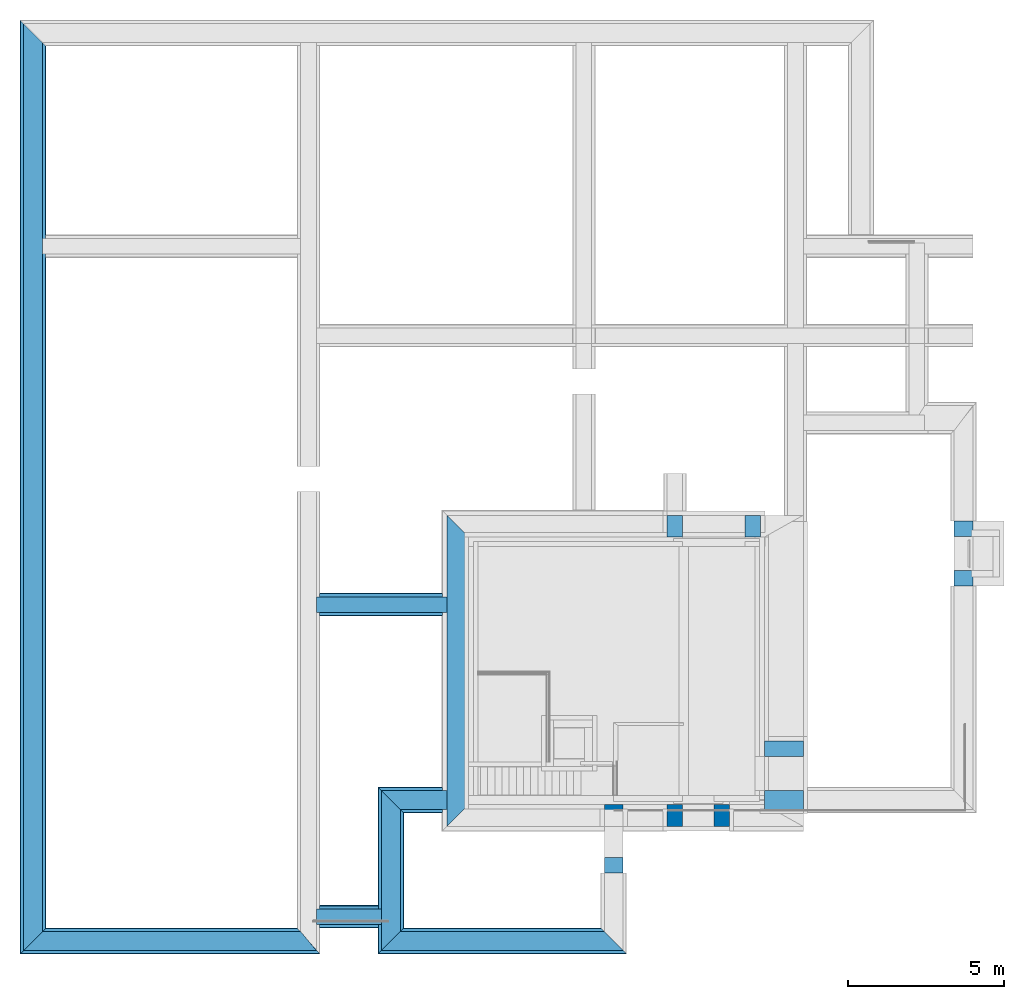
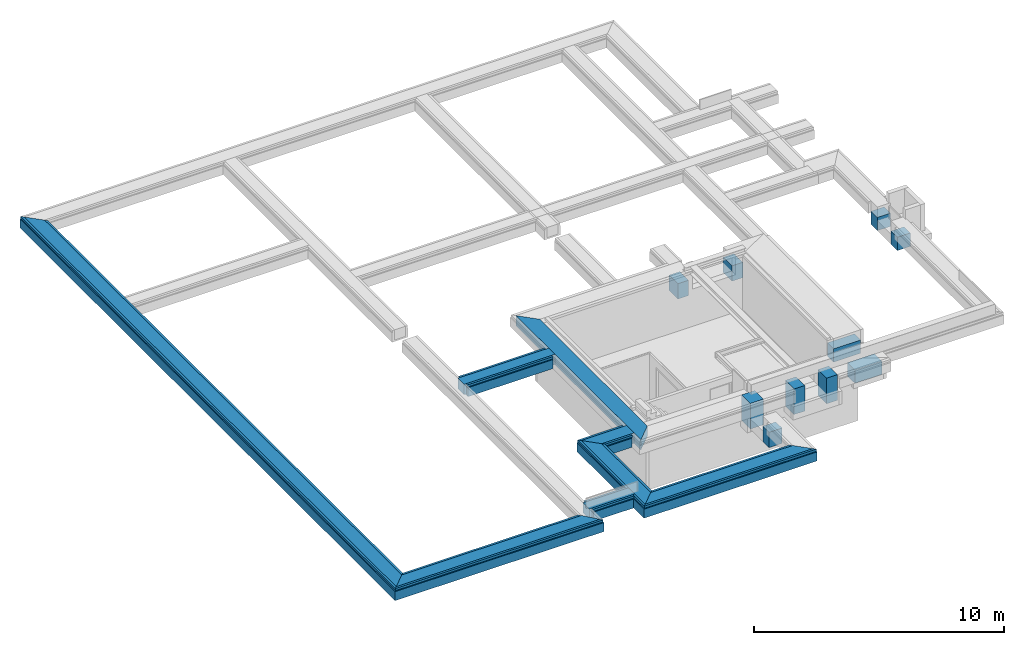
# One storey, part 1 of 11: 15 beams, 10 columns.
"""IFC2X3 building model written with IfcOpenShell, lengths in millimetres."""

from ifc_helpers import new_model, entity, si_unit, converted_unit, derived_unit, money_unit, direction, frame, origin_with_axes, place, context, subcontext, project, spatial, faceted_brep, material, type_object, element, save


model = new_model("IFC2X3")

# Units and contexts
model_context = context("Model", 3, precision=0.01, world=origin_with_axes(), true_north=direction((0.0, 1.0)))
body_context = subcontext(model_context, "Body", "Model", "MODEL_VIEW")
ifc_project = project(units=[si_unit("LENGTHUNIT", "METRE", prefix="MILLI"), si_unit("AREAUNIT", "SQUARE_METRE"), si_unit("VOLUMEUNIT", "CUBIC_METRE"), converted_unit("PLANEANGLEUNIT", "DEGREE", entity("IfcPlaneAngleMeasure", 0.0174532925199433), si_unit("PLANEANGLEUNIT", "RADIAN"), dimensions=[0, 0, 0, 0, 0, 0, 0]), money_unit("EUR"), converted_unit("TIMEUNIT", "Year", entity("IfcTimeMeasure", 31556926.0), si_unit("TIMEUNIT", "SECOND"), dimensions=[0, 0, 1, 0, 0, 0, 0]), si_unit("MASSUNIT", "GRAM", prefix="KILO"), si_unit("THERMODYNAMICTEMPERATUREUNIT", "DEGREE_CELSIUS"), si_unit("LUMINOUSINTENSITYUNIT", "LUMEN"), si_unit("ENERGYUNIT", "JOULE", prefix="MEGA"), derived_unit("THERMALCONDUCTANCEUNIT", [(si_unit("POWERUNIT", "WATT"), 1), (si_unit("LENGTHUNIT", "METRE"), -1), (si_unit("THERMODYNAMICTEMPERATUREUNIT", "KELVIN"), -1)]), derived_unit("SPECIFICHEATCAPACITYUNIT", [(si_unit("ENERGYUNIT", "JOULE"), 1), (si_unit("MASSUNIT", "GRAM", prefix="KILO"), -1), (si_unit("THERMODYNAMICTEMPERATUREUNIT", "KELVIN"), -1)]), derived_unit("MASSDENSITYUNIT", [(si_unit("MASSUNIT", "GRAM", prefix="KILO"), 1), (si_unit("VOLUMEUNIT", "CUBIC_METRE"), -1)])], contexts=[model_context])

# Site, building, storey
site_placement = place(None, origin_with_axes())
site = spatial("IfcSite", under=ifc_project, at=site_placement, Name="Site", CompositionType="ELEMENT")
building_placement = place(site_placement, origin_with_axes())
building = spatial("IfcBuilding", under=site, at=building_placement, Name="Naam gebouw", CompositionType="ELEMENT")
storey_placement = place(building_placement, frame((0.0, 0.0, -3060.0), z_axis=(0.0, 0.0, 1.0), x_axis=(1.0, 0.0, 0.0)))
storey = spatial("IfcBuildingStorey", under=building, at=storey_placement, Name="Kelder", CompositionType="ELEMENT", Elevation=-3060.0)

# Columns
ifc_material_1 = material(Name="Beton gewapend C")
column_type_1 = type_object("IfcColumnType", Name="16 Fundering - betonbalk 600 x 500", PredefinedType="COLUMN")
column_1_placement = place(storey_placement, frame((29900.00000000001, 12999.99778166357, 1425.0), z_axis=(0.0, 0.0, 1.0), x_axis=(-1.0, 0.0, 0.0)))
element("IfcColumn", 1, at=column_1_placement, inside=storey, type_object=column_type_1, material=ifc_material_1, Name="28_Kolom-x", ObjectType="COLUMN", context=body_context, shape_type="Brep", body=[
    faceted_brep([(-300.0000000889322, -500.0, 649.9999999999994), (-300.0000000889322, -500.0, 0.0), (300.0000000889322, -500.0, 0.0), (300.0000000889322, -500.0, 649.9999999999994), (-300.0000000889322, 0.0, 649.9999999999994), (-300.0000000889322, 0.0, 0.0), (300.0000000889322, 0.0, 0.0), (300.0000000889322, 0.0, 649.9999999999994)], [[[0, 1, 2, 3]], [[4, 5, 1, 0]], [[2, 1, 5, 6]], [[3, 2, 6, 7]], [[4, 0, 3, 7]], [[7, 6, 5, 4]]]),
])
column_2_placement = place(storey_placement, frame((29900.00000000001, 11899.99778166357, 1425.0), z_axis=(0.0, 0.0, 1.0), x_axis=(1.0, 0.0, 0.0)))
element("IfcColumn", 2, at=column_2_placement, inside=storey, type_object=column_type_1, material=ifc_material_1, Name="28_Kolom-x", ObjectType="COLUMN", context=body_context, shape_type="Brep", body=[
    faceted_brep([(300.0000000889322, 0.0, 649.9999999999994), (300.0000000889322, 0.0, 0.0), (-300.0000000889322, 0.0, 0.0), (-300.0000000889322, 0.0, 649.9999999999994), (300.0000000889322, -500.0, 649.9999999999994), (300.0000000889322, -500.0, 0.0), (-300.0000000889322, -500.0, 0.0), (-300.0000000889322, -500.0, 649.9999999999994)], [[[0, 1, 2, 3]], [[4, 5, 1, 0]], [[2, 1, 5, 6]], [[3, 2, 6, 7]], [[4, 0, 3, 7]], [[7, 6, 5, 4]]]),
])
column_3_placement = place(storey_placement, frame((18655.00000235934, 2680.000000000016, 1325.0), z_axis=(0.0, 0.0, 1.0), x_axis=(1.0, 0.0, 0.0)))
element("IfcColumn", 3, at=column_3_placement, inside=storey, type_object=column_type_1, material=ifc_material_1, Name="28_Kolom-x", ObjectType="COLUMN", context=body_context, shape_type="Brep", body=[
    faceted_brep([(300.0000000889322, 0.0, 749.9999999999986), (300.0000000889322, 0.0, 0.0), (-300.0000000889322, 0.0, 0.0), (-300.0000000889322, 0.0, 749.9999999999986), (300.0000000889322, -500.0, 749.9999999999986), (300.0000000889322, -500.0, 0.0), (-300.0000000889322, -500.0, 0.0), (-300.0000000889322, -500.0, 749.9999999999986)], [[[0, 1, 2, 3]], [[4, 5, 1, 0]], [[2, 1, 5, 6]], [[3, 2, 6, 7]], [[4, 0, 3, 7]], [[7, 6, 5, 4]]]),
])
column_type_2 = type_object("IfcColumnType", Name="16 Fundering - betonbalk 1250 x 500", PredefinedType="COLUMN")
column_4_placement = place(storey_placement, frame((24125.00000000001, 5930.000000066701, 1425.0), z_axis=(0.0, 0.0, 1.0), x_axis=(-1.0, 0.0, 0.0)))
element("IfcColumn", 4, at=column_4_placement, inside=storey, type_object=column_type_2, material=ifc_material_1, Name="28_Kolom-x", ObjectType="COLUMN", context=body_context, shape_type="Brep", body=[
    faceted_brep([(-625.0, -500.0, 649.9999999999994), (-625.0, -500.0, 0.0), (625.0, -500.0, 0.0), (625.0, -500.0, 649.9999999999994), (-625.0, 0.0, 649.9999999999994), (-625.0, 0.0, 0.0), (625.0, 0.0, 0.0), (625.0, 0.0, 649.9999999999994)], [[[0, 1, 2, 3]], [[4, 5, 1, 0]], [[2, 1, 5, 6]], [[3, 2, 6, 7]], [[4, 0, 3, 7]], [[7, 6, 5, 4]]]),
])
column_type_3 = type_object("IfcColumnType", Name="16 Fundering - betonbalk 1250 x 600", PredefinedType="COLUMN")
column_5_placement = place(storey_placement, frame((24125.00000000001, 4830.000000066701, 1425.0), z_axis=(0.0, 0.0, 1.0), x_axis=(1.0, 0.0, 0.0)))
element("IfcColumn", 5, at=column_5_placement, inside=storey, type_object=column_type_3, material=ifc_material_1, Name="28_Kolom-x", ObjectType="COLUMN", context=body_context, shape_type="Brep", body=[
    faceted_brep([(625.0, 0.0, 649.9999999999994), (625.0, 0.0, 0.0), (-625.0, 0.0, 0.0), (-625.0, 0.0, 649.9999999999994), (625.0, -600.0000001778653, 649.9999999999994), (625.0, -600.0000001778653, 0.0), (-625.0, -600.0000001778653, 0.0), (-625.0, -600.0000001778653, 649.9999999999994)], [[[0, 1, 2, 3]], [[4, 5, 1, 0]], [[2, 1, 5, 6]], [[3, 2, 6, 7]], [[4, 0, 3, 7]], [[7, 6, 5, 4]]]),
])
column_type_4 = type_object("IfcColumnType", Name="16 Fundering - betonbalk 600 x 700", PredefinedType="COLUMN")
column_6_placement = place(storey_placement, frame((18655.00000228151, 3679.999999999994, 1325.0), z_axis=(0.0, 0.0, 1.0), x_axis=(-1.0, 0.0, 0.0)))
element("IfcColumn", 6, at=column_6_placement, inside=storey, type_object=column_type_4, material=ifc_material_1, Name="28_Kolom-x", ObjectType="COLUMN", context=body_context, shape_type="Brep", body=[
    faceted_brep([(-300.0000001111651, -700.0000275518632, 1250.0), (-300.0000001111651, -700.0000275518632, 0.0), (300.0000001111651, -700.0000275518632, 0.0), (300.0000001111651, -700.0000275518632, 1250.0), (-300.0000001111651, 0.0, 1250.0), (-300.0000001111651, 0.0, 0.0), (300.0000001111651, 0.0, 0.0), (300.0000001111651, 0.0, 1250.0)], [[[0, 1, 2, 3]], [[4, 5, 1, 0]], [[2, 1, 5, 6]], [[3, 2, 6, 7]], [[4, 0, 3, 7]], [[7, 6, 5, 4]]]),
])
column_type_5 = type_object("IfcColumnType", Name="16 Fundering - betonbalk 700 x 500", PredefinedType="COLUMN")
column_7_placement = place(storey_placement, frame((20875.00011891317, 13330.00004534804, 1325.0), z_axis=(0.0, 0.0, 1.0), x_axis=(0.0, -1.0, 0.0)))
element("IfcColumn", 7, at=column_7_placement, inside=storey, type_object=column_type_5, material=ifc_material_1, Name="28_Kolom-x", ObjectType="COLUMN", context=body_context, shape_type="Brep", body=[
    faceted_brep([(-350.0000103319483, -500.0, 749.9999999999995), (-350.0000103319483, -500.0, 0.0), (350.0000103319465, -500.0, 0.0), (350.0000103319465, -500.0, 749.9999999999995), (-350.0000103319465, 0.0, 749.9999999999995), (-350.0000103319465, 0.0, 0.0), (350.0000103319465, 0.0, 0.0), (350.0000103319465, 0.0, 749.9999999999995)], [[[0, 1, 2, 3]], [[4, 5, 1, 0]], [[2, 1, 5, 6]], [[3, 2, 6, 7]], [[4, 0, 3, 7]], [[7, 6, 5, 4]]]),
])
column_8_placement = place(storey_placement, frame((22875.00011891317, 13330.00004534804, 1325.0), z_axis=(0.0, 0.0, 1.0), x_axis=(0.0, 1.0, 0.0)))
element("IfcColumn", 8, at=column_8_placement, inside=storey, type_object=column_type_5, material=ifc_material_1, Name="28_Kolom-x", ObjectType="COLUMN", context=body_context, shape_type="Brep", body=[
    faceted_brep([(350.0000103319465, 0.0, 749.9999999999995), (350.0000103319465, 0.0, 0.0), (-350.0000103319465, 0.0, 0.0), (-350.0000103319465, 0.0, 749.9999999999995), (350.0000103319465, -500.0, 749.9999999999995), (350.0000103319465, -500.0, 0.0), (-350.0000103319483, -500.0, 0.0), (-350.0000103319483, -500.0, 749.9999999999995)], [[[0, 1, 2, 3]], [[4, 5, 1, 0]], [[2, 1, 5, 6]], [[3, 2, 6, 7]], [[4, 0, 3, 7]], [[7, 6, 5, 4]]]),
])
column_9_placement = place(storey_placement, frame((21875.00007301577, 4029.999958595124, 1325.0), z_axis=(0.0, 0.0, 1.0), x_axis=(0.0, 1.0, 0.0)))
element("IfcColumn", 9, at=column_9_placement, inside=storey, type_object=column_type_5, material=ifc_material_1, Name="28_Kolom-x", ObjectType="COLUMN", context=body_context, shape_type="Brep", body=[
    faceted_brep([(350.0000103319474, 0.0, 1250.0), (350.0000103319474, 0.0, 0.0), (-350.0000103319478, 0.0, 0.0), (-350.0000103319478, 0.0, 1250.0), (350.0000103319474, -500.0, 1250.0), (350.0000103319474, -500.0, 0.0), (-350.0000103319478, -500.0, 0.0), (-350.0000103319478, -500.0, 1250.0)], [[[0, 1, 2, 3]], [[4, 5, 1, 0]], [[2, 1, 5, 6]], [[3, 2, 6, 7]], [[4, 0, 3, 7]], [[7, 6, 5, 4]]]),
])
column_10_placement = place(storey_placement, frame((20874.99999528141, 4030.000003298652, 1325.0), z_axis=(0.0, 0.0, 1.0), x_axis=(0.0, -1.0, 0.0)))
element("IfcColumn", 10, at=column_10_placement, inside=storey, type_object=column_type_5, material=ifc_material_1, Name="28_Kolom-x", ObjectType="COLUMN", context=body_context, shape_type="Brep", body=[
    faceted_brep([(-350.0000103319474, -500.0, 1250.0), (-350.0000103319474, -500.0, 0.0), (350.0000103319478, -500.0, 0.0), (350.0000103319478, -500.0, 1250.0), (-350.0000103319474, 0.0, 1250.0), (-350.0000103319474, 0.0, 0.0), (350.0000103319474, 0.0, 0.0), (350.0000103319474, 0.0, 1250.0)], [[[0, 1, 2, 3]], [[4, 5, 1, 0]], [[2, 1, 5, 6]], [[3, 2, 6, 7]], [[4, 0, 3, 7]], [[7, 6, 5, 4]]]),
])

# Beams
beam_type_1 = type_object("IfcBeamType", Name="16 Fundering - betonbalk 600 x 500", PredefinedType="BEAM")
beam_1_placement = place(storey_placement, frame((11550.00000000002, 4480.000000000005, 2575.0), z_axis=(0.0, 0.0, 1.0), x_axis=(-1.0, 0.0, 0.0)))
element("IfcBeam", 11, at=beam_1_placement, inside=storey, type_object=beam_type_1, material=ifc_material_1, Name="f2- Met cement gebonden producten (alle vulmiddelen)_Regenwaterafvoer-x", ObjectType="BEAM", context=body_context, shape_type="Brep", body=[
    faceted_brep([(-250.0000000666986, 250.0000000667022, -500.0000000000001), (-250.0000000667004, 4179.98258592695, -500.0000000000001), (350.0000000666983, 4779.980743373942, -500.0000000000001), (350.0000000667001, -350.0000000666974, -500.0000000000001), (-250.0000000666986, 250.0000000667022, 0.0), (-250.0000000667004, 4179.98258592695, 0.0), (350.0000000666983, 4779.980743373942, 0.0), (350.0000000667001, -350.0000000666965, 0.0)], [[[0, 1, 2, 3]], [[4, 5, 1, 0]], [[2, 1, 5, 6]], [[3, 2, 6, 7]], [[4, 0, 3, 7]], [[7, 6, 5, 4]]]),
])
beam_2_placement = place(storey_placement, frame((0.0, 0.0, 2575.0), z_axis=(0.0, 0.0, 1.0), x_axis=(1.0, 0.0, 0.0)))
element("IfcBeam", 12, at=beam_2_placement, inside=storey, type_object=beam_type_1, material=ifc_material_1, Name="f2- Met cement gebonden producten (alle vulmiddelen)_Regenwaterafvoer-x", ObjectType="BEAM", context=body_context, shape_type="Brep", body=[
    faceted_brep([(-300.0000000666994, -300.0000000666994, -500.0000000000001), (-300.0000000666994, 29475.0000000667, -500.0000000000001), (300.0000000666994, 28874.9999999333, -500.0000000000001), (300.0000000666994, 300.0000000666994, -500.0000000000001), (-300.0000000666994, -300.0000000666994, 0.0), (-300.0000000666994, 29475.0000000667, 0.0), (300.0000000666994, 28874.9999999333, 0.0), (300.0000000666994, 300.0000000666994, 0.0)], [[[0, 1, 2, 3]], [[4, 5, 1, 0]], [[2, 1, 5, 6]], [[3, 2, 6, 7]], [[4, 0, 3, 7]], [[7, 6, 5, 4]]]),
])
beam_3_placement = place(storey_placement, frame((14000.00000000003, 4480.000000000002, 2575.0), z_axis=(0.0, 0.0, 1.0), x_axis=(0.0, 1.0, 0.0)))
element("IfcBeam", 13, at=beam_3_placement, inside=storey, type_object=beam_type_1, material=ifc_material_1, Name="f2- Met cement gebonden producten (alle vulmiddelen)_Regenwaterafvoer-x", ObjectType="BEAM", context=body_context, shape_type="Brep", body=[
    faceted_brep([(-250.0000000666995, 2199.999999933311, 0.0), (-250.0000000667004, 700.0000103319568, 0.0), (350.0000000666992, 700.0000103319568, 0.0), (350.0000000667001, 2800.00000006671, 0.0), (-250.0000000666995, 2199.999999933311, -500.0000000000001), (-250.0000000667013, 700.0000103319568, -500.0000000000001), (350.0000000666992, 700.0000103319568, -500.0000000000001), (350.0000000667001, 2800.00000006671, -500.0000000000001)], [[[0, 1, 2, 3]], [[4, 5, 1, 0]], [[5, 6, 2, 1]], [[3, 2, 6, 7]], [[4, 0, 3, 7]], [[7, 6, 5, 4]]]),
])
beam_4_placement = place(storey_placement, frame((11550.00000000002, 0.01818179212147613, 2575.0), z_axis=(0.0, 0.0, 1.0), x_axis=(-3.071148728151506e-06, -0.9999999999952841, 0.0)))
element("IfcBeam", 14, at=beam_4_placement, inside=storey, type_object=beam_type_1, material=ifc_material_1, Name="f2- Met cement gebonden producten (alle vulmiddelen)_Regenwaterafvoer-x", ObjectType="BEAM", context=body_context, shape_type="Brep", body=[
    faceted_brep([(300.0000000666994, -349.9990787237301, 0.0), (300.0000000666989, 7405.000849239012, 0.0), (-300.0000000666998, 6804.999006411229, 0.0), (-300.0000000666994, 249.9990787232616, 0.0), (300.0000000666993, -349.9990787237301, -500.0000000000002), (300.0000000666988, 7405.000849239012, -500.0000000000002), (-300.0000000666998, 6804.999006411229, -500.0), (-300.0000000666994, 249.9990787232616, -500.0)], [[[0, 1, 2, 3]], [[4, 5, 1, 0]], [[2, 1, 5, 6]], [[3, 2, 6, 7]], [[4, 0, 3, 7]], [[7, 6, 5, 4]]]),
])
beam_5_placement = place(storey_placement, frame((8850.000000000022, 0.0, 2575.0), z_axis=(0.0, 0.0, 1.0), x_axis=(0.0, 1.0, 0.0)))
element("IfcBeam", 15, at=beam_5_placement, inside=storey, type_object=beam_type_1, material=ifc_material_1, Name="f2- Met cement gebonden producten (alle vulmiddelen)_Regenwaterafvoer-x", ObjectType="BEAM", context=body_context, shape_type="Brep", body=[
    faceted_brep([(-300.0000000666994, -250.0000000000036, -500.0000000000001), (-300.0000000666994, 9150.000000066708, -500.0000000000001), (300.0000000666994, 8549.999999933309, -500.0000000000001), (300.0000000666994, 249.9999999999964, -500.0000000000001), (-300.0000000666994, -250.0000000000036, 0.0), (-300.0000000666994, 9150.000000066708, 0.0), (300.0000000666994, 8549.999999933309, 0.0), (300.0000000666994, 249.9999999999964, 0.0)], [[[0, 1, 2, 3]], [[4, 5, 1, 0]], [[2, 1, 5, 6]], [[3, 2, 6, 7]], [[4, 0, 3, 7]], [[7, 6, 5, 4]]]),
])
beam_type_2 = type_object("IfcBeamType", Name="16 Fundering - betonbalk 500 x 500", PredefinedType="BEAM")
beam_6_placement = place(storey_placement, frame((8850.000000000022, 10810.00011055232, 2575.0), z_axis=(0.0, 0.0, 1.0), x_axis=(0.0, -1.0, 0.0)))
element("IfcBeam", 16, at=beam_6_placement, inside=storey, type_object=beam_type_2, material=ifc_material_1, Name="f2- Met cement gebonden producten (alle vulmiddelen)_Regenwaterafvoer-x", ObjectType="BEAM", context=body_context, shape_type="Brep", body=[
    faceted_brep([(-250.0, 4449.999989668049, -500.0000000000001), (-249.9999999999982, 250.0000000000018, -500.0000000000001), (-250.0, 250.0000000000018, 0.0), (-250.0, 4449.999989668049, 0.0), (250.0, 4449.999989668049, -500.0000000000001), (249.9999999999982, 250.0000000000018, -500.0000000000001), (250.0, 250.0000000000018, 0.0), (250.0, 4449.999989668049, 0.0)], [[[0, 1, 2, 3]], [[4, 5, 1, 0]], [[5, 6, 2, 1]], [[3, 2, 6, 7]], [[7, 4, 0, 3]], [[7, 6, 5, 4]]]),
])
beam_7_placement = place(storey_placement, frame((11550.00000000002, 680.0000000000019, 2575.0), z_axis=(0.0, 0.0, 1.0), x_axis=(0.0, 1.0, 0.0)))
element("IfcBeam", 17, at=beam_7_placement, inside=storey, type_object=beam_type_2, material=ifc_material_1, Name="f2- Met cement gebonden producten (alle vulmiddelen)_Regenwaterafvoer-x", ObjectType="BEAM", context=body_context, shape_type="Brep", body=[
    faceted_brep([(-150.0, 2449.999999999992, 0.0), (-149.9999999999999, 350.0000000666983, 0.0), (350.0000000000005, 350.0000000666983, 0.0), (350.000000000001, 2449.999999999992, 0.0), (-150.0, 2449.999999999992, -500.0000000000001), (-149.9999999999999, 350.0000000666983, -500.0000000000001), (350.0000000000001, 350.0000000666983, -500.0000000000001), (350.0000000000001, 2449.999999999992, -500.0000000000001)], [[[0, 1, 2, 3]], [[4, 5, 1, 0]], [[5, 6, 2, 1]], [[3, 2, 6, 7]], [[7, 4, 0, 3]], [[7, 6, 5, 4]]]),
])
ifc_material_2 = material(Name="Isolatie - Kunststof hard")
beam_type_3 = type_object("IfcBeamType", Name="16 Fundering - EPS kist 600x500 840 x 570", PredefinedType="BEAM")
beam_8_placement = place(storey_placement, frame((11550.0, 4480.000000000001, 2575.0), z_axis=(0.0, 0.0, 1.0), x_axis=(-1.0, 0.0, 0.0)))
element("IfcBeam", 18, at=beam_8_placement, inside=storey, type_object=beam_type_3, material=ifc_material_2, Name="n7 Kunststof met cellenstructuur_Regenwaterafvoer-x", ObjectType="BEAM", context=body_context, shape_type="Brep", body=[
    faceted_brep([(-250.0, 250.0000000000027, -500.0000000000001), (-250.0, 4179.98258599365, -500.0000000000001), (-250.0, 4179.98258599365, 0.0), (-250.0, 250.0000000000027, 0.0), (349.9999999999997, -349.9999999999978, -500.0000000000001), (349.9999999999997, 4779.980743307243, -500.0000000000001), (349.9999999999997, 4779.980743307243, 0.0), (449.9999999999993, 4879.980436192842, 0.0), (449.9999999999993, 4879.980436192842, -101.434286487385), (469.9999999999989, 4899.980374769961, -130.935084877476), (469.9999999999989, 4899.980374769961, -570.0000000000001), (-370.000000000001, 4059.982954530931, -570.0000000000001), (-369.9999999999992, 4059.982954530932, -130.9350848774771), (-349.9999999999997, 4079.982893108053, -101.4342864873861), (-349.9999999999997, 4079.982893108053, 0.0), (-349.9999999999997, 350.0000000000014, 0.0), (-349.9999999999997, 350.0000000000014, -101.4342864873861), (-369.9999999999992, 370.0000000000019, -130.9350848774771), (-369.9999999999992, 370.0000000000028, -570.0000000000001), (470.0000000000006, -469.999999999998, -570.0000000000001), (470.0000000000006, -469.999999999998, -130.935084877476), (449.9999999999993, -449.9999999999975, -101.434286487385), (449.9999999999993, -449.9999999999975, 0.0), (349.9999999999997, -349.9999999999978, 0.0)], [[[0, 1, 2, 3]], [[4, 5, 1, 0]], [[2, 1, 5, 6, 7, 8, 9, 10, 11, 12, 13, 14]], [[3, 2, 14, 15]], [[4, 0, 3, 15, 16, 17, 18, 19, 20, 21, 22, 23]], [[23, 6, 5, 4]], [[22, 7, 6, 23]], [[21, 8, 7, 22]], [[20, 9, 8, 21]], [[19, 10, 9, 20]], [[18, 11, 10, 19]], [[17, 12, 11, 18]], [[16, 13, 12, 17]], [[15, 14, 13, 16]]]),
])
beam_9_placement = place(storey_placement, frame((8849.999999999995, 0.0, 2575.0), z_axis=(0.0, 0.0, 1.0), x_axis=(0.0, 1.0, 0.0)))
element("IfcBeam", 19, at=beam_9_placement, inside=storey, type_object=beam_type_3, material=ifc_material_2, Name="n7 Kunststof met cellenstructuur_Regenwaterafvoer-x", ObjectType="BEAM", context=body_context, shape_type="Brep", body=[
    faceted_brep([(-299.9999999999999, -264.2857142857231, -500.0000000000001), (-299.9999999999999, 9150.000000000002, -500.0000000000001), (-300.0, 9150.000000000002, 0.0), (-300.0, -264.2857142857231, 0.0), (300.0, 264.2857142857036, -500.0000000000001), (300.0, 8550.000000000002, -500.0000000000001), (299.9999999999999, 8550.000000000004, 0.0), (399.9999999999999, 8450.000000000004, 0.0), (399.9999999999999, 8450.000000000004, -101.434286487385), (419.9999999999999, 8430.000000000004, -130.935084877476), (420.0, 8430.000000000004, -570.0000000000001), (-419.9999999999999, 9270.000000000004, -570.0000000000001), (-419.999999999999, 9270.000000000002, -130.9350848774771), (-399.999999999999, 9250.000000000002, -101.4342864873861), (-399.999999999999, 9250.000000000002, 0.0), (-399.999999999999, -352.38095238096, 0.0), (-399.999999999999, -352.38095238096, -101.4342864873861), (-419.999999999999, -370.0000000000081, -130.9350848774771), (-419.9999999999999, -370.0000000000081, -570.0000000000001), (420.0, 369.9999999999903, -570.0000000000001), (419.9999999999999, 369.9999999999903, -130.935084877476), (399.9999999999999, 352.3809523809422, -101.434286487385), (399.9999999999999, 352.3809523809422, 0.0), (299.9999999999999, 264.2857142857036, 0.0)], [[[0, 1, 2, 3]], [[4, 5, 1, 0]], [[2, 1, 5, 6, 7, 8, 9, 10, 11, 12, 13, 14]], [[3, 2, 14, 15]], [[4, 0, 3, 15, 16, 17, 18, 19, 20, 21, 22, 23]], [[23, 6, 5, 4]], [[22, 7, 6, 23]], [[21, 8, 7, 22]], [[20, 9, 8, 21]], [[19, 10, 9, 20]], [[18, 11, 10, 19]], [[17, 12, 11, 18]], [[16, 13, 12, 17]], [[15, 14, 13, 16]]]),
])
beam_10_placement = place(storey_placement, frame((11550.0, 0.01818179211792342, 2575.0), z_axis=(0.0, 0.0, 1.0), x_axis=(-3.071148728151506e-06, -0.9999999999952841, 0.0)))
element("IfcBeam", 20, at=beam_10_placement, inside=storey, type_object=beam_type_3, material=ifc_material_2, Name="n7 Kunststof met cellenstructuur_Regenwaterafvoer-x", ObjectType="BEAM", context=body_context, shape_type="Brep", body=[
    faceted_brep([(-300.0000000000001, 249.9990786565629, -500.0), (-300.0000000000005, 6804.999006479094, -500.0), (-300.0000000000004, 6804.999006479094, 0.0), (-300.0, 249.9990786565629, 0.0), (299.9999999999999, -349.9990786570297, -500.0000000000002), (299.9999999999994, 7405.000849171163, -500.0000000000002), (299.9999999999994, 7405.000849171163, 0.0), (399.9999999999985, 7505.001156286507, 0.0), (399.9999999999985, 7505.001156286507, -101.4342864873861), (419.9999999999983, 7525.001217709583, -130.9350848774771), (419.9999999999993, 7525.001217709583, -570.0000000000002), (-420.0000000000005, 6684.998637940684, -569.9999999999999), (-420.0000000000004, 6684.998637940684, -130.935084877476), (-400.0000000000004, 6704.998699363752, -101.434286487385), (-400.0000000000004, 6704.998699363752, 0.0), (-400.0, 349.9987715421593, 0.0), (-400.0, 349.9987715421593, -101.434286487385), (-420.0, 369.9987101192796, -130.935084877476), (-420.0000000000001, 369.9987101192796, -569.9999999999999), (419.9999999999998, -469.9987101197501, -570.0000000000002), (419.9999999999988, -469.9987101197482, -130.9350848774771), (399.999999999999, -449.9987715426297, -101.4342864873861), (399.999999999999, -449.9987715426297, 0.0), (299.9999999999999, -349.9990786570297, 0.0)], [[[0, 1, 2, 3]], [[4, 5, 1, 0]], [[2, 1, 5, 6, 7, 8, 9, 10, 11, 12, 13, 14]], [[3, 2, 14, 15]], [[4, 0, 3, 15, 16, 17, 18, 19, 20, 21, 22, 23]], [[23, 6, 5, 4]], [[22, 7, 6, 23]], [[21, 8, 7, 22]], [[20, 9, 8, 21]], [[19, 10, 9, 20]], [[18, 11, 10, 19]], [[17, 12, 11, 18]], [[16, 13, 12, 17]], [[15, 14, 13, 16]]]),
])
beam_11_placement = place(storey_placement, frame((13300.00000252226, 4479.999999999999, 2575.0), z_axis=(0.0, 0.0, 1.0), x_axis=(0.0, 1.0, 0.0)))
element("IfcBeam", 21, at=beam_11_placement, inside=storey, type_object=beam_type_3, material=ifc_material_2, Name="n7 Kunststof met cellenstructuur_Regenwaterafvoer-x", ObjectType="BEAM", context=body_context, shape_type="Brep", body=[
    faceted_brep([(350.0000000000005, 2100.000002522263, 0.0), (349.9999999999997, 140.0000025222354, 0.0), (450.0000000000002, 140.0000025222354, 0.0), (450.0000000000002, 2200.000002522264, 0.0), (349.9999999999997, 168.0000025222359, -130.935084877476), (349.9999999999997, 140.0000025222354, -101.434286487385), (350.0000000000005, 2100.000002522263, -500.0000000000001), (349.9999999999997, 168.0000025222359, -500.0000000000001), (450.0000000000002, 140.0000025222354, -101.434286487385), (450.0000000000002, 2200.000002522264, -101.434286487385), (-349.9999999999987, 1400.000002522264, -101.4342864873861), (-349.9999999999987, 1400.000002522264, 0.0), (-250.0, 1500.000002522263, 0.0), (-250.0, 1500.000002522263, -500.0000000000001), (469.9999999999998, 2220.000002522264, -130.935084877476), (469.9999999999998, 2220.000002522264, -570.0000000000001), (-370.0000000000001, 1380.000002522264, -570.0000000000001), (-369.9999999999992, 1380.000002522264, -130.9350848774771), (469.9999999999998, 168.0000025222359, -130.935084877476), (-250.0, 168.0000025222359, -500.0000000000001), (-370.0000000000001, 168.0000025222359, -570.0000000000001), (469.9999999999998, 168.0000025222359, -570.0000000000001), (-250.0, 168.0000025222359, -130.935084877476), (-369.9999999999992, 168.0000025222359, -130.935084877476), (-349.9999999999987, 140.0000025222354, -101.434286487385), (-349.9999999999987, 140.0000025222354, 0.0), (-250.0, 140.0000025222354, 0.0), (-250.0, 140.0000025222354, -101.434286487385)], [[[0, 1, 2, 3]], [[4, 5, 1, 0, 6, 7]], [[5, 8, 2, 1]], [[3, 2, 8, 9]], [[10, 11, 12, 13, 6, 0, 3, 9, 14, 15, 16, 17]], [[4, 18, 8, 5]], [[13, 19, 7, 6]], [[20, 21, 18, 4, 7, 19, 22, 23]], [[9, 8, 18, 14]], [[10, 24, 25, 11]], [[11, 25, 26, 12]], [[27, 22, 19, 13, 12, 26]], [[14, 18, 21, 15]], [[15, 21, 20, 16]], [[16, 20, 23, 17]], [[17, 23, 24, 10]], [[23, 22, 27, 24]], [[24, 27, 26, 25]]]),
])
beam_12_placement = place(storey_placement, frame((0.0, 0.0, 2575.0), z_axis=(0.0, 0.0, 1.0), x_axis=(1.0, 0.0, 0.0)))
element("IfcBeam", 22, at=beam_12_placement, inside=storey, type_object=beam_type_3, material=ifc_material_2, Name="n7 Kunststof met cellenstructuur_Regenwaterafvoer-x", ObjectType="BEAM", context=body_context, shape_type="Brep", body=[
    faceted_brep([(-299.9999999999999, -299.9999999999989, -500.0000000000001), (-299.9999999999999, 29475.0, -500.0000000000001), (-300.0, 29475.0, 0.0), (-300.0, -299.9999999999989, 0.0), (300.0000000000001, 300.0000000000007, -500.0000000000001), (300.0000000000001, 28875.0, -500.0000000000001), (300.0, 28875.0, 0.0), (400.0, 28775.0, 0.0), (400.0, 28775.0, -101.434286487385), (420.0, 28755.0, -130.935084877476), (420.0000000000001, 28755.0, -570.0000000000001), (-419.9999999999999, 29595.00000000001, -570.0000000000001), (-419.999999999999, 29595.00000000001, -130.9350848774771), (-399.999999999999, 29575.0, -101.4342864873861), (-399.999999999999, 29575.0, 0.0), (-399.999999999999, -399.9999999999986, 0.0), (-399.999999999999, -399.9999999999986, -101.4342864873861), (-419.999999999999, -419.9999999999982, -130.9350848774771), (-419.9999999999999, -419.9999999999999, -570.0000000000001), (420.0000000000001, 419.9999999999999, -570.0000000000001), (420.0, 419.9999999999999, -130.935084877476), (400.0, 400.0000000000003, -101.434286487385), (400.0, 400.0000000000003, 0.0), (300.0, 300.0000000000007, 0.0)], [[[0, 1, 2, 3]], [[4, 5, 1, 0]], [[2, 1, 5, 6, 7, 8, 9, 10, 11, 12, 13, 14]], [[3, 2, 14, 15]], [[4, 0, 3, 15, 16, 17, 18, 19, 20, 21, 22, 23]], [[23, 6, 5, 4]], [[22, 7, 6, 23]], [[21, 8, 7, 22]], [[20, 9, 8, 21]], [[19, 10, 9, 20]], [[18, 11, 10, 19]], [[17, 12, 11, 18]], [[16, 13, 12, 17]], [[15, 14, 13, 16]]]),
])
beam_type_4 = type_object("IfcBeamType", Name="16 Fundering - EPS kist 500x500 740 x 570", PredefinedType="BEAM")
beam_13_placement = place(storey_placement, frame((11550.0, 679.9999999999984, 2575.0), z_axis=(0.0, 0.0, 1.0), x_axis=(0.0, 1.0, 0.0)))
element("IfcBeam", 23, at=beam_13_placement, inside=storey, type_object=beam_type_4, material=ifc_material_2, Name="n7 Kunststof met cellenstructuur_Regenwaterafvoer-x", ObjectType="BEAM", context=body_context, shape_type="Brep", body=[
    faceted_brep([(350.0000000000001, 2349.99999612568, 5.364423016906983e-06), (350.0000000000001, 449.9999946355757, -3.576282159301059e-06), (450.0000000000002, 449.9999946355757, -3.576282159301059e-06), (450.0000000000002, 2349.99999612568, 5.364423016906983e-06), (350.0000000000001, 469.9999999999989, -130.935088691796), (350.0000000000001, 449.9999946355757, -101.4342893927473), (350.0000000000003, 2349.99999612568, -101.4342843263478), (350.0000000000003, 2329.999999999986, -130.9350866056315), (350.0000000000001, 2329.999999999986, -500.0000000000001), (350.0000000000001, 469.9999999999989, -500.0000000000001), (450.0000000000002, 449.9999946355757, -101.4342893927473), (450.0000000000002, 2349.99999612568, -101.4342843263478), (470.0000000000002, 469.9999999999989, -130.935088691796), (470.0000000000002, 2329.999999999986, -130.9350866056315), (470.0000000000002, 2329.999999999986, -570.0000000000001), (-269.9999999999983, 2329.999999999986, -570.0000000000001), (-269.9999999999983, 2329.999999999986, -130.9350866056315), (-150.0, 2329.999999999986, -130.9350866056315), (-150.0, 2329.999999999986, -500.0000000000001), (-149.9999999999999, 469.9999999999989, -500.0000000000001), (-270.0000000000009, 469.9999999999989, -570.0000000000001), (470.0000000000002, 469.9999999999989, -570.0000000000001), (-150.0000000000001, 469.9999999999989, -130.935088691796), (-270.0000000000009, 469.9999999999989, -130.935088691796), (-249.999999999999, 2349.99999612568, -101.4342843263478), (-150.0, 2349.99999612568, -101.4342843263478), (-150.0000000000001, 449.9999946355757, -101.4342893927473), (-150.0, 2349.99999612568, 5.364423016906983e-06), (-149.9999999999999, 449.9999946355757, -3.576282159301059e-06), (-249.9999999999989, 449.9999946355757, -101.4342893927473), (-249.9999999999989, 2349.99999612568, 5.364423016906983e-06), (-249.999999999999, 449.9999946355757, -3.576282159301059e-06)], [[[0, 1, 2, 3]], [[4, 5, 1, 0, 6, 7, 8, 9]], [[5, 10, 2, 1]], [[3, 2, 10, 11]], [[11, 6, 0, 3]], [[4, 12, 10, 5]], [[7, 6, 11, 13]], [[8, 7, 13, 14, 15, 16, 17, 18]], [[18, 19, 9, 8]], [[20, 21, 12, 4, 9, 19, 22, 23]], [[11, 10, 12, 13]], [[13, 12, 21, 14]], [[14, 21, 20, 15]], [[15, 20, 23, 16]], [[16, 24, 25, 17]], [[26, 22, 19, 18, 17, 25, 27, 28]], [[23, 22, 26, 29]], [[16, 23, 29, 24]], [[25, 24, 30, 27]], [[30, 31, 28, 27]], [[29, 26, 28, 31]], [[24, 29, 31, 30]]]),
])
beam_14_placement = place(storey_placement, frame((8850.000000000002, 10810.00011055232, 2575.0), z_axis=(0.0, 0.0, 1.0), x_axis=(0.0, -1.0, 0.0)))
element("IfcBeam", 24, at=beam_14_placement, inside=storey, type_object=beam_type_4, material=ifc_material_2, Name="n7 Kunststof met cellenstructuur_Regenwaterafvoer-x", ObjectType="BEAM", context=body_context, shape_type="Brep", body=[
    faceted_brep([(-369.9999999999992, 4282.00000000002, -570.0000000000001), (-370.0000000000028, 370.0000000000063, -570.0000000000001), (-370.0000000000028, 370.0000000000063, -130.9350866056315), (-369.9999999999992, 4282.00000000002, -130.9350866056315), (369.9999999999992, 4282.00000000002, -570.0000000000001), (369.9999999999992, 370.0000000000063, -570.0000000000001), (-250.0, 370.0000000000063, -130.9350866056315), (369.9999999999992, 370.0000000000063, -130.9350866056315), (250.0, 370.0000000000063, -130.9350866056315), (250.0, 370.0000000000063, -500.0000000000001), (-250.0, 370.0000000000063, -500.0000000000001), (-349.9999999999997, 350.0000038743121, -101.4342843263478), (-349.9999999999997, 4309.999994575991, -101.4342931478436), (369.9999999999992, 4282.00000000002, -130.9350866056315), (-250.0, 4282.00000000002, -130.9350866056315), (-250.0, 4282.00000000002, -500.0000000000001), (250.0, 4282.00000000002, -500.0000000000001), (250.0, 4282.00000000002, -130.9350866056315), (-250.0, 350.0000038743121, -101.4342843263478), (349.9999999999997, 350.0000038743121, -101.4342843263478), (250.0, 350.0000038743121, -101.4342843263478), (250.0, 350.0000038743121, 5.364423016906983e-06), (250.0, 4309.999994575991, -5.662446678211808e-06), (250.0, 4309.999994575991, -101.4342931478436), (-250.0, 4309.999994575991, -101.4342931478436), (-250.0, 4309.999994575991, -5.662446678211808e-06), (-250.0, 350.0000038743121, 5.364423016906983e-06), (-349.9999999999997, 350.0000038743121, 5.364423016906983e-06), (-349.9999999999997, 4309.999994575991, -5.662446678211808e-06), (349.9999999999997, 4309.999994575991, -101.4342931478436), (349.9999999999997, 350.0000038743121, 5.364423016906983e-06), (349.9999999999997, 4309.999994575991, -5.662446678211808e-06)], [[[0, 1, 2, 3]], [[4, 5, 1, 0]], [[6, 2, 1, 5, 7, 8, 9, 10]], [[3, 2, 11, 12]], [[13, 4, 0, 3, 14, 15, 16, 17]], [[13, 7, 5, 4]], [[18, 11, 2, 6]], [[19, 20, 8, 7]], [[8, 20, 21, 22, 23, 17, 16, 9]], [[15, 10, 9, 16]], [[18, 6, 10, 15, 14, 24, 25, 26]], [[12, 11, 27, 28]], [[24, 14, 3, 12]], [[29, 13, 17, 23]], [[29, 19, 7, 13]], [[18, 26, 27, 11]], [[19, 30, 21, 20]], [[22, 21, 30, 31]], [[31, 29, 23, 22]], [[25, 24, 12, 28]], [[28, 27, 26, 25]], [[31, 30, 19, 29]]]),
])
beam_type_5 = type_object("IfcBeamType", Name="16 Fundering - betonbalk 700 x 500", PredefinedType="BEAM")
beam_15_placement = place(storey_placement, frame((14000.00000000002, 4380.0, 2575.0), z_axis=(0.0, 0.0, 1.0), x_axis=(1.0, 0.0, 0.0)))
element("IfcBeam", 25, at=beam_15_placement, inside=storey, type_object=beam_type_5, material=ifc_material_1, Name="f2- Met cement gebonden producten (alle vulmiddelen)_Regenwaterafvoer-x", ObjectType="BEAM", context=body_context, shape_type="Brep", body=[
    faceted_brep([(-700.0000103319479, -700.000008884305, -500.0000000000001), (-700.0000103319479, 9300.000010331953, -500.0000000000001), (1.03319468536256e-05, 8599.99998966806, -500.0000000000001), (1.03319468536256e-05, 1.033194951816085e-05, -500.0000000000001), (-700.0000103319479, -700.000008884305, 0.0), (-700.0000103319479, 9300.000010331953, 0.0), (1.03319468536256e-05, 8599.99998966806, 0.0), (1.03319468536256e-05, 1.033194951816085e-05, 0.0)], [[[0, 1, 2, 3]], [[4, 5, 1, 0]], [[2, 1, 5, 6]], [[3, 2, 6, 7]], [[4, 0, 3, 7]], [[7, 6, 5, 4]]]),
])

save(model, "model.ifc")
